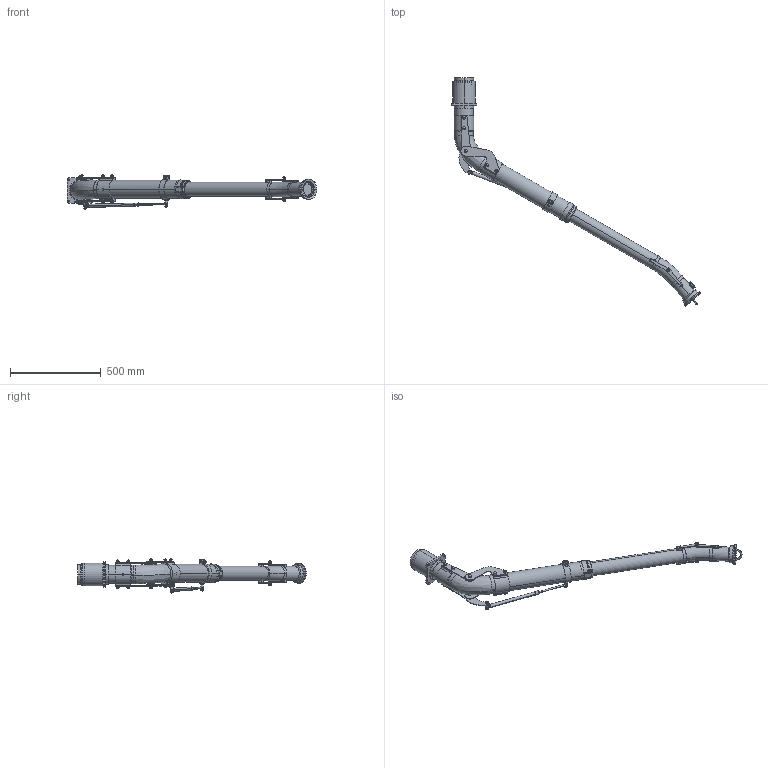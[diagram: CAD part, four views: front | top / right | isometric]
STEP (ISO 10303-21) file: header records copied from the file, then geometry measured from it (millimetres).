
FILE_DESCRIPTION((''),'2;1');
FILE_NAME('109422-REF','2020-04-21T07:50:29',('Tomas Bellgran'),(''),'CREO PARAMETRIC BY PTC INC, 2018260','CREO PARAMETRIC BY PTC INC, 2018260','');
FILE_SCHEMA(('AUTOMOTIVE_DESIGN { 1 0 10303 214 1 1 1 1 }'));
Length unit declared in the file: millimetre
Products named in the file (48): 100945; 100252; 100940; 100935; 106-308; 106-311; 106-412_LIGHT; 106-408-03; 106-408-02; SPACER; 109549; 106-015; 106-550; 106-408-01; 105-559-11; 105-559-21; 105-559-01; 9900420; SCREW_SPRING; 106-708; 106-036; 106-551; 106-707_AF25; 106-026; 109472; 106-399; 121718; 121648; 121611; 117006; 106-832; 117011; 106-821; 106-823; 106-050; 106-822; 106-824; 109572; 109445_AF41; 109430_AF2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
Assembly tree (72 placements, depth 4):
  109422-REF
    106-015
      106-311
        100945
        100252
        100940
        100935  x2
        106-308
      106-412_LIGHT
      106-408-03
      106-408-02
      SPACER
      109549  x5
    106-036
      106-550
      106-412_LIGHT
      106-408-01  x2
      105-559-01
        105-559-11
        105-559-21
      9900420
      109549  x5
      SCREW_SPRING
      106-708
    106-026
      106-551
      106-707_AF25
    109472  x2
    106-050
      106-399
      121611
        121718
        121648
      117006
      106-832
      117011
      106-821  x2
      106-823  x2
    106-822  x2
    106-824  x2
    109572  x2
    109445_AF41
    109430_AF2
    126105_AF0
      126105_TUBE-REF
      126105_ROD-REF
      109948  x2
    100107
      LOCK_NUT_M8_DIN985-REF
      LOCK_NUT_M8_DIN985_PL-REF
    109549  x6
Bounding box: 1378.7 x 1261.69 x 189 mm (x, y, z)
Volume: 17280437.1 mm3; surface area: 1317724.4 mm2
Topology: 63 solids, 63 shells, 947 faces, 2294 edges, 1457 vertices
Faces by surface type: plane 388, cylinder 301, cone 121, sphere 66, bspline 41, torus 28, extrusion 2
Entity records: 43108 total; most frequent: CARTESIAN_POINT 17912, DIRECTION 3253, ORIENTED_EDGE 2942, PRESENTATION_STYLE_ASSIGNMENT 1984, STYLED_ITEM 1984, EDGE_CURVE 1471, CURVE_STYLE 1459, AXIS2_PLACEMENT_3D 1336
